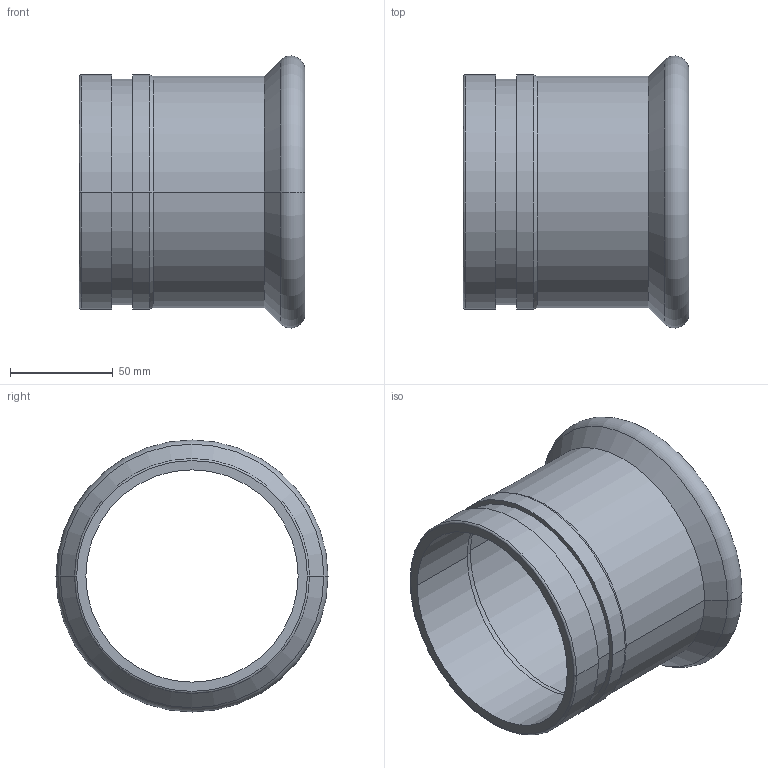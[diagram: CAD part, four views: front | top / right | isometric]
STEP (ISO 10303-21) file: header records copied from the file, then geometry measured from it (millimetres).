
FILE_DESCRIPTION(('CoCreate Modeling STEP Export'),'2;1');
FILE_NAME('C1442 108x114.stp','2015-08-11T 9:21:49',(''),(''),'CoCreate Modeling STEP processor for AP214 (Solid Model)','CoCreate Modeling 17.00A 17-Jun-2010 (C) Parametric Technology GmbH','');
FILE_SCHEMA(('AUTOMOTIVE_DESIGN { 1 0 10303 214 1 1 1 1 }'));
Length unit declared in the file: millimetre
Products named in the file (1): C1442-108x114
Bounding box: 110 x 132.58 x 132.58 mm (x, y, z)
Volume: 162910.3 mm3; surface area: 85793.2 mm2
Topology: 1 solids, 1 shells, 29 faces, 58 edges, 34 vertices
Faces by surface type: cylinder 14, cone 6, plane 5, torus 4
Entity records: 639 total; most frequent: ORIENTED_EDGE 116, DIRECTION 98, CARTESIAN_POINT 93, EDGE_CURVE 58, AXIS2_PLACEMENT_3D 39, VERTEX_POINT 34, EDGE_LOOP 34, FACE_OUTER_BOUND 29
